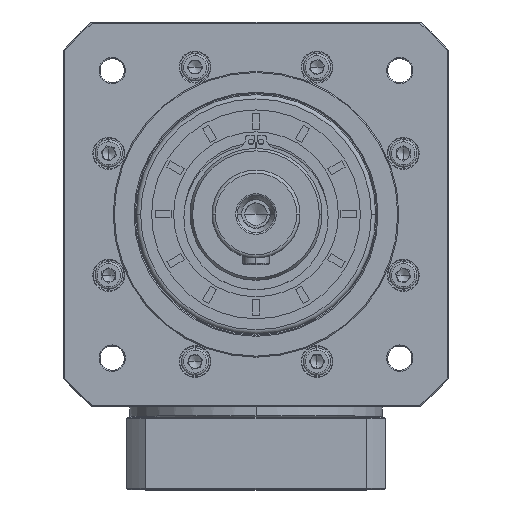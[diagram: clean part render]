
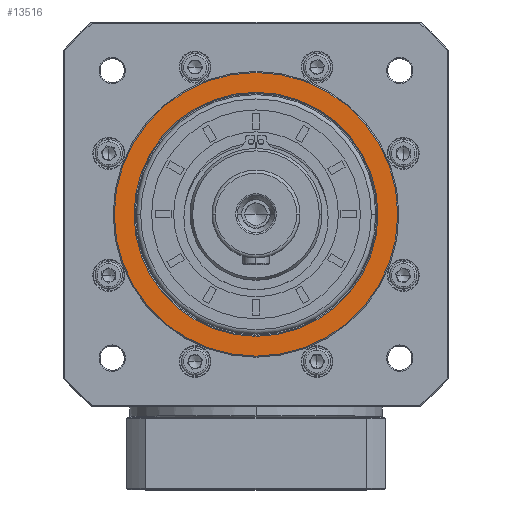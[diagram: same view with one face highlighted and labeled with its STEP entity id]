
A CAD part, top view. The second image highlights one B-rep face of the part: STEP entity #13516.
In plain terms, the highlighted planar face has unit normal (0, 0, 1).
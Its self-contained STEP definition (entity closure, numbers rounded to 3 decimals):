
#656 = VERTEX_POINT ( 'NONE', #65144 ) ;
#4535 = DIRECTION ( 'NONE',  ( 1., 0., 0. ) ) ;
#4870 = AXIS2_PLACEMENT_3D ( 'NONE', #137191, #141442, #4535 ) ;
#5565 = DIRECTION ( 'NONE',  ( 0., 0., -1. ) ) ;
#8254 = ORIENTED_EDGE ( 'NONE', *, *, #43465, .F. ) ;
#11205 = ORIENTED_EDGE ( 'NONE', *, *, #38445, .T. ) ;
#12493 = AXIS2_PLACEMENT_3D ( 'NONE', #43205, #5565, #29602 ) ;
#13516 = ADVANCED_FACE ( 'NONE', ( #161855, #79832 ), #55761, .T. ) ;
#19427 = EDGE_LOOP ( 'NONE', ( #8254, #81901 ) ) ;
#24496 = VERTEX_POINT ( 'NONE', #147316 ) ;
#26398 = DIRECTION ( 'NONE',  ( 1., 0., 0. ) ) ;
#29558 = VERTEX_POINT ( 'NONE', #61466 ) ;
#29602 = DIRECTION ( 'NONE',  ( -1., 0., 0. ) ) ;
#30701 = CARTESIAN_POINT ( 'NONE',  ( -178.759, -41.632, 272.546 ) ) ;
#33938 = VERTEX_POINT ( 'NONE', #114284 ) ;
#38445 = EDGE_CURVE ( 'NONE', #33938, #656, #120769, .T. ) ;
#41977 = ORIENTED_EDGE ( 'NONE', *, *, #49169, .T. ) ;
#43205 = CARTESIAN_POINT ( 'NONE',  ( -178.759, -41.632, 272.546 ) ) ;
#43254 = DIRECTION ( 'NONE',  ( 0., 0., 1. ) ) ;
#43465 = EDGE_CURVE ( 'NONE', #29558, #24496, #130441, .T. ) ;
#46971 = AXIS2_PLACEMENT_3D ( 'NONE', #150240, #75514, #26398 ) ;
#47378 = CIRCLE ( 'NONE', #4870, 64.5 ) ;
#49169 = EDGE_CURVE ( 'NONE', #656, #33938, #153269, .T. ) ;
#55761 = PLANE ( 'NONE',  #70795 ) ;
#56914 = CARTESIAN_POINT ( 'NONE',  ( -178.759, -41.632, 272.546 ) ) ;
#61466 = CARTESIAN_POINT ( 'NONE',  ( -114.259, -41.632, 272.546 ) ) ;
#64484 = EDGE_CURVE ( 'NONE', #24496, #29558, #47378, .T. ) ;
#65144 = CARTESIAN_POINT ( 'NONE',  ( -234.259, -41.632, 272.546 ) ) ;
#70795 = AXIS2_PLACEMENT_3D ( 'NONE', #30701, #43254, #79255 ) ;
#75514 = DIRECTION ( 'NONE',  ( 0., 0., -1. ) ) ;
#77190 = EDGE_LOOP ( 'NONE', ( #41977, #11205 ) ) ;
#79255 = DIRECTION ( 'NONE',  ( -1., 0., 0. ) ) ;
#79832 = FACE_OUTER_BOUND ( 'NONE', #19427, .T. ) ;
#81901 = ORIENTED_EDGE ( 'NONE', *, *, #64484, .F. ) ;
#114284 = CARTESIAN_POINT ( 'NONE',  ( -123.259, -41.632, 272.546 ) ) ;
#119592 = DIRECTION ( 'NONE',  ( 0., 0., -1. ) ) ;
#120769 = CIRCLE ( 'NONE', #12493, 55.5 ) ;
#130441 = CIRCLE ( 'NONE', #46971, 64.5 ) ;
#133013 = AXIS2_PLACEMENT_3D ( 'NONE', #56914, #119592, #144167 ) ;
#137191 = CARTESIAN_POINT ( 'NONE',  ( -178.759, -41.632, 272.546 ) ) ;
#141442 = DIRECTION ( 'NONE',  ( 0., 0., -1. ) ) ;
#144167 = DIRECTION ( 'NONE',  ( -1., 0., 0. ) ) ;
#147316 = CARTESIAN_POINT ( 'NONE',  ( -243.259, -41.632, 272.546 ) ) ;
#150240 = CARTESIAN_POINT ( 'NONE',  ( -178.759, -41.632, 272.546 ) ) ;
#153269 = CIRCLE ( 'NONE', #133013, 55.5 ) ;
#161855 = FACE_BOUND ( 'NONE', #77190, .T. ) ;
